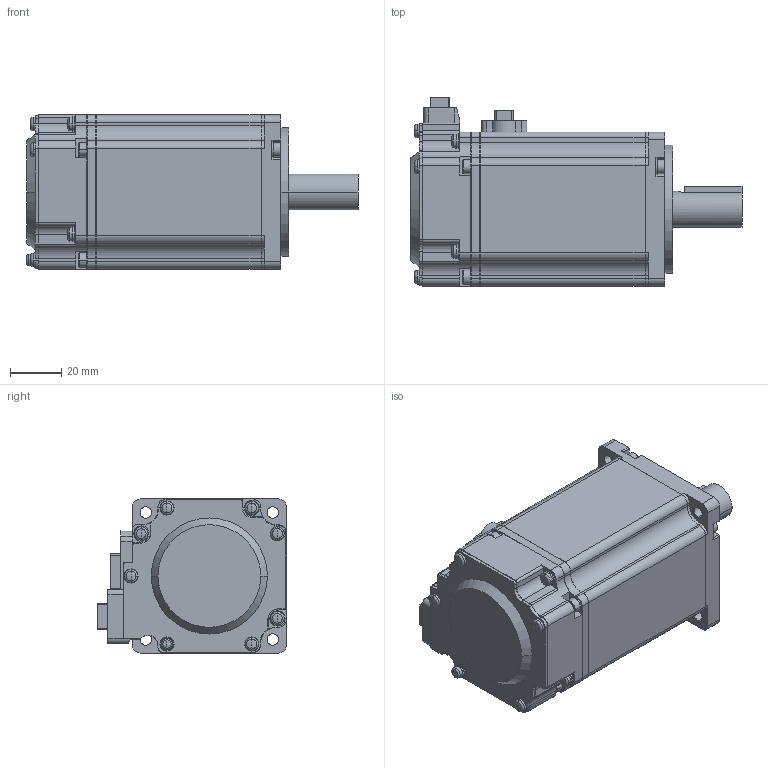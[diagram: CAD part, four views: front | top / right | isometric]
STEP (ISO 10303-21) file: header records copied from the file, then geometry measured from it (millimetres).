
FILE_DESCRIPTION( ( '' ), '1' );
FILE_NAME( '//expscmdclustefs.cadenas.external/client_exchange/iodir/jobs/output/wkb53605012_no0/STEP/MSME042G1U_1__2_03.stp', '2013-01-24T13:04:40', ( '' ), ( '' ), ' ', ' ', ' ' );
FILE_SCHEMA( ( 'CONFIG_CONTROL_DESIGN' ) );
Length unit declared in the file: millimetre
Products named in the file (1): 1
Bounding box: 129.3 x 73.5 x 60 mm (x, y, z)
Volume: 327891 mm3; surface area: 40283.9 mm2
Topology: 1 solids, 1 shells, 753 faces, 2007 edges, 1306 vertices
Faces by surface type: plane 396, cylinder 281, cone 40, torus 36
Entity records: 23553 total; most frequent: DIRECTION 4183, CARTESIAN_POINT 4155, ORIENTED_EDGE 3970, EDGE_CURVE 1985, AXIS2_PLACEMENT_3D 1450, VERTEX_POINT 1306, LINE 1283, VECTOR 1283
